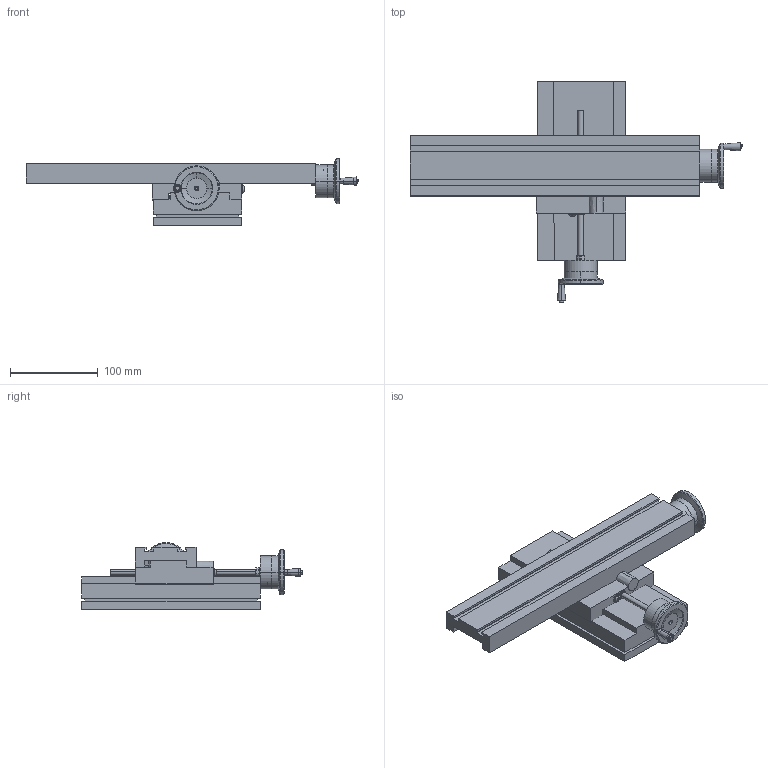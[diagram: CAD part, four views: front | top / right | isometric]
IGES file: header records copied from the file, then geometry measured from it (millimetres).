
Start section: Comment
Global section: file name: 6540-ind x,y-base 12..igs; native system:  By Spatial Corp.; preprocessor: XPlus PS/IGES 3.0; author: Author; organization: Title; date: 20190723.095817; units: inch
Bounding box: 378.17 x 251.2 x 76.13 mm (x, y, z)
Surface area: 214251.9 mm2 (no closed solid volume)
Topology: 0 solids, 0 shells, 644 faces, 3032 edges, 3026 vertices
Faces by surface type: extrusion 346, revolution 298
